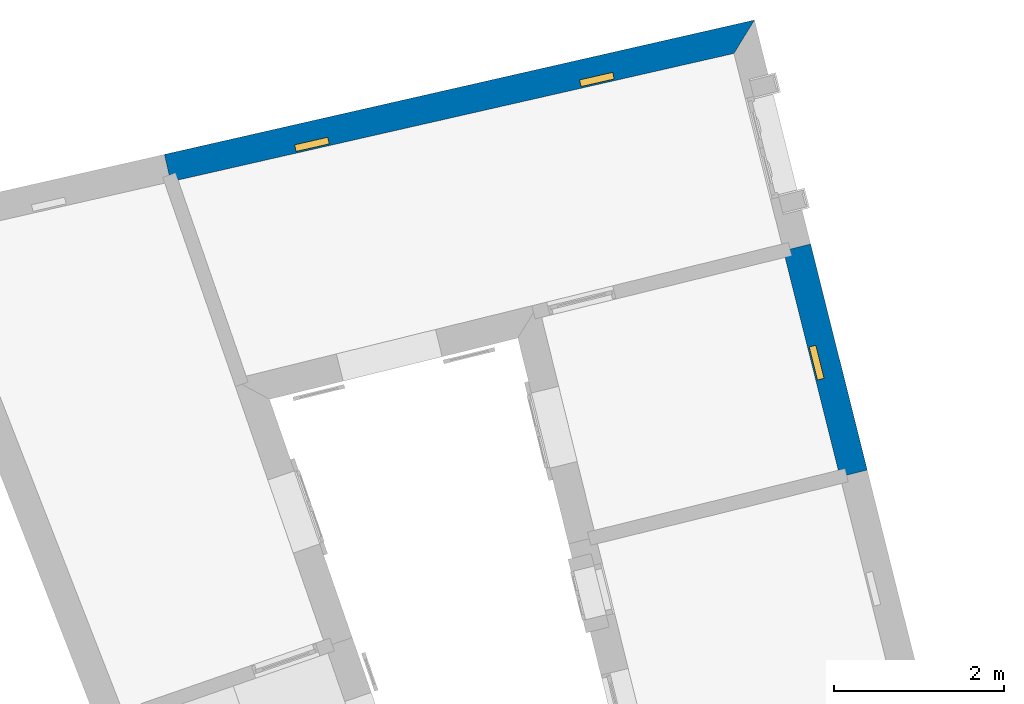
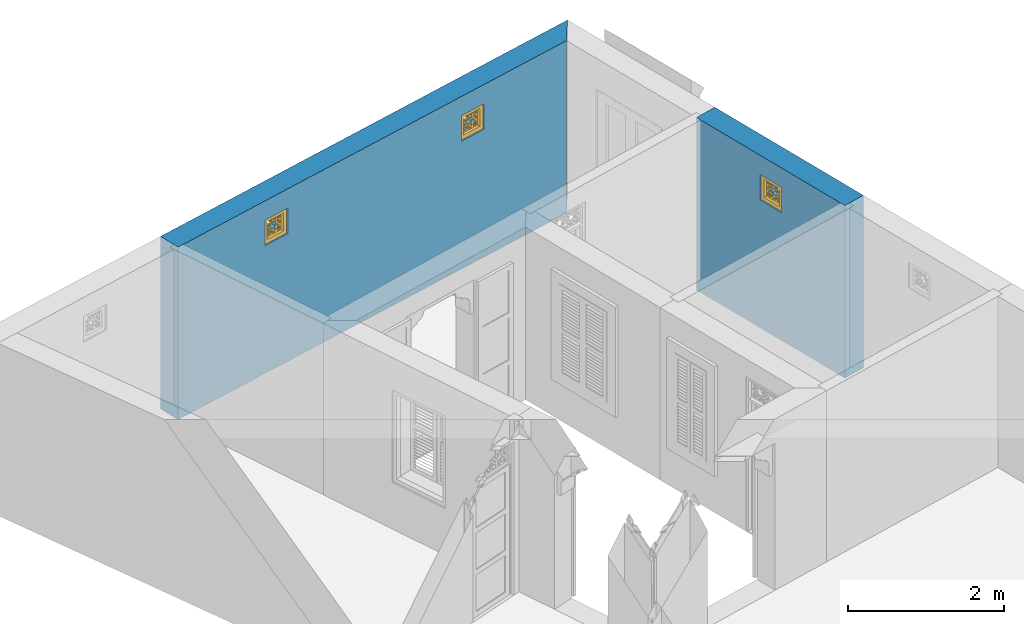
# One storey, part 10 of 12: 3 windows, 2 walls, 3 openings.
"""IFC4 building model written with IfcOpenShell, lengths in metres."""

import ifcopenshell
import ifcopenshell.guid

model = None  # the IFC model being written
_history = None  # IfcOwnerHistory: only IFC2X3 demands one
_inside = {}  # id of a spatial element -> (the spatial element, [elements in it])
_under = {}  # id of a project, library or spatial element -> (it, [spatial elements below it])
_declared = {}  # id of a project -> (the project, [libraries it declares])
_typed = {}  # id of a type object -> (the type object, [elements of that type])
_made_of = {}  # id of a material, layer set ... -> (it, [elements and type objects made of it])


def new_model(schema):
    """Start an empty IFC model of exactly this schema.

    Asked for "IFC4X3", IfcOpenShell would pick the latest addendum, in which some entities
    have other attributes; the version numbers below select the first issue.
    IFC2X3 requires an IfcOwnerHistory on every rooted entity: one is made here for all.
    """
    global model, _history
    if schema == "IFC4X3":
        model = ifcopenshell.file(schema_version=(4, 3, 0, 0))
    else:
        model = ifcopenshell.file(schema=schema)
    _inside.clear()
    _under.clear()
    _declared.clear()
    _typed.clear()
    _made_of.clear()
    _history = None
    if model.schema == "IFC2X3":
        org = make("IfcOrganization", Name="unknown")
        user = make(
            "IfcPersonAndOrganization",
            ThePerson=make("IfcPerson", FamilyName="unknown"),
            TheOrganization=org,
        )
        app = make(
            "IfcApplication",
            ApplicationDeveloper=org,
            Version="unknown",
            ApplicationFullName="unknown",
            ApplicationIdentifier="unknown",
        )
        _history = make(
            "IfcOwnerHistory",
            OwningUser=user,
            OwningApplication=app,
            ChangeAction="ADDED",
            CreationDate=0,
        )
    return model


def make(cls, **values):
    """One entity of the class cls with the attributes given. An attribute that is None is left unset."""
    return model.create_entity(
        cls, **{name: value for name, value in values.items() if value is not None}
    )


def rooted(cls, **values):
    """An entity with a GlobalId (a new one), such as an element, a storey or a relation."""
    return make(cls, GlobalId=ifcopenshell.guid.new(), OwnerHistory=_history, **values)


def si_unit(unit_type, name, prefix=None):
    """IfcSIUnit, for example si_unit("LENGTHUNIT", "METRE", prefix="MILLI")."""
    return make("IfcSIUnit", UnitType=unit_type, Prefix=prefix, Name=name)


def assignment(units):
    """IfcUnitAssignment: the units of a project."""
    return None if units is None else make("IfcUnitAssignment", Units=units)


def point(xyz):
    """IfcCartesianPoint."""
    return None if xyz is None else make("IfcCartesianPoint", Coordinates=xyz)


def direction(xyz):
    """IfcDirection."""
    return None if xyz is None else make("IfcDirection", DirectionRatios=xyz)


def frame(location, z_axis=None, x_axis=None):
    """IfcAxis2Placement3D, a coordinate frame: its origin and axes. An axis left out is left unset."""
    return make(
        "IfcAxis2Placement3D",
        Location=point(location),
        Axis=direction(z_axis),
        RefDirection=direction(x_axis),
    )


def origin():
    """The frame at (0, 0, 0) with its axes left unset."""
    return frame((0.0, 0.0, 0.0))


def origin_with_axes():
    """The frame at (0, 0, 0) with the z axis (0, 0, 1) and the x axis (1, 0, 0) written out."""
    return frame((0.0, 0.0, 0.0), z_axis=(0.0, 0.0, 1.0), x_axis=(1.0, 0.0, 0.0))


def place(relative_to, where):
    """IfcLocalPlacement: puts the frame where relative to a parent placement (None: the world)."""
    return make(
        "IfcLocalPlacement", PlacementRelTo=relative_to, RelativePlacement=where
    )


def context(
    kind, dimensions, precision=None, world=None, true_north=None, identifier=None
):
    """IfcGeometricRepresentationContext, for example the 3D "Model" context."""
    return make(
        "IfcGeometricRepresentationContext",
        ContextIdentifier=identifier,
        ContextType=kind,
        CoordinateSpaceDimension=dimensions,
        Precision=precision,
        WorldCoordinateSystem=world,
        TrueNorth=true_north,
    )


def subcontext(parent, identifier, kind, view, scale=None):
    """IfcGeometricRepresentationSubContext, for example "Body" below "Model"."""
    return make(
        "IfcGeometricRepresentationSubContext",
        ContextIdentifier=identifier,
        ContextType=kind,
        ParentContext=parent,
        TargetScale=scale,
        TargetView=view,
    )


def project(units=None, contexts=None):
    """IfcProject with its units and contexts."""
    return rooted(
        "IfcProject",
        Name="project",
        RepresentationContexts=contexts,
        UnitsInContext=assignment(units),
    )


def spatial(cls, under=None, at=None, **own):
    """A site, building, storey or space (cls), placed at a placement, below another one or the project."""
    s = rooted(cls, ObjectPlacement=at, **own)
    if under is not None:
        _under.setdefault(under.id(), (under, []))[1].append(s)
    return s


def polyline(points):
    """IfcPolyline through the points."""
    return make("IfcPolyline", Points=[point(p) for p in points])


def outline(outer, holes=None, kind="AREA"):
    """IfcArbitraryClosedProfileDef: a profile drawn as a closed curve; with holes, ...WithVoids."""
    if holes is None:
        return make("IfcArbitraryClosedProfileDef", ProfileType=kind, OuterCurve=outer)
    return make(
        "IfcArbitraryProfileDefWithVoids",
        ProfileType=kind,
        OuterCurve=outer,
        InnerCurves=holes,
    )


def extrude(swept, where, along, depth):
    """IfcExtrudedAreaSolid: the profile swept, set in the frame where, extruded along a direction by depth."""
    return make(
        "IfcExtrudedAreaSolid",
        SweptArea=swept,
        Position=where,
        ExtrudedDirection=direction(along),
        Depth=depth,
    )


def faces_of(points, faces, orient=None, outer=None):
    """IfcFace entities. A face is a list of loops; a loop is a list of indices into points, from 0.

    orient and outer hold one flag for each loop. By default every Orientation is true, the
    first loop of a face is its IfcFaceOuterBound and the others are IfcFaceBound.
    """
    made = []
    for i, loops in enumerate(faces):
        bounds = []
        for j, loop in enumerate(loops):
            is_outer = j == 0 if outer is None else outer[i][j]
            bounds.append(
                make(
                    "IfcFaceOuterBound" if is_outer else "IfcFaceBound",
                    Bound=make("IfcPolyLoop", Polygon=[points[k] for k in loop]),
                    Orientation=True if orient is None else orient[i][j],
                )
            )
        made.append(make("IfcFace", Bounds=bounds))
    return made


def faceted_brep(points, faces, orient=None, outer=None, voids=None):
    """IfcFacetedBrep: a solid bounded by flat faces; with voids (closed shells), ...WithVoids."""
    shared = [point(p) for p in points]
    hull = make("IfcClosedShell", CfsFaces=faces_of(shared, faces, orient, outer))
    if voids is None:
        return make("IfcFacetedBrep", Outer=hull)
    return make(
        "IfcFacetedBrepWithVoids",
        Outer=hull,
        Voids=[
            make(cls, CfsFaces=faces_of(shared, fs, o, b)) for cls, fs, o, b in voids
        ],
    )


def shape(context_of_items, identifier, shape_type, items):
    """IfcShapeRepresentation: the items that make up one representation, for example the "Body"."""
    return make(
        "IfcShapeRepresentation",
        ContextOfItems=context_of_items,
        RepresentationIdentifier=identifier,
        RepresentationType=shape_type,
        Items=items,
    )


def source(mapping_origin, context_of_items, identifier, shape_type, items):
    """IfcRepresentationMap: a shape defined once, which mapped items show again and again."""
    return make(
        "IfcRepresentationMap",
        MappingOrigin=mapping_origin,
        MappedRepresentation=shape(context_of_items, identifier, shape_type, items),
    )


def transform(
    local_origin,
    x_axis=None,
    y_axis=None,
    z_axis=None,
    scale=None,
    scale2=None,
    scale3=None,
    uniform=True,
):
    """IfcCartesianTransformationOperator3D, or its non-uniform kind. x_axis, y_axis, z_axis: its Axis1, 2, 3."""
    if uniform:
        return make(
            "IfcCartesianTransformationOperator3D",
            Axis1=direction(x_axis),
            Axis2=direction(y_axis),
            LocalOrigin=point(local_origin),
            Scale=scale,
            Axis3=direction(z_axis),
        )
    return make(
        "IfcCartesianTransformationOperator3DnonUniform",
        Axis1=direction(x_axis),
        Axis2=direction(y_axis),
        LocalOrigin=point(local_origin),
        Scale=scale,
        Axis3=direction(z_axis),
        Scale2=scale2,
        Scale3=scale3,
    )


def mapped(mapping_source, mapping_target):
    """IfcMappedItem: shows the shape of a source again, moved by a transform."""
    return make(
        "IfcMappedItem", MappingSource=mapping_source, MappingTarget=mapping_target
    )


def material(Name=None, Category=None):
    """IfcMaterial."""
    return make("IfcMaterial", Name=Name, Category=Category)


def layer(
    of_material, thickness, ventilated=None, Name=None, Category=None, Priority=None
):
    """IfcMaterialLayer: one layer of a wall or slab, of a material (None: an air gap)."""
    return make(
        "IfcMaterialLayer",
        Material=of_material,
        LayerThickness=thickness,
        IsVentilated=ventilated,
        Name=Name,
        Category=Category,
        Priority=Priority,
    )


def layer_set(layers, Name=None):
    """IfcMaterialLayerSet."""
    return make("IfcMaterialLayerSet", MaterialLayers=layers, LayerSetName=Name)


def layer_usage(for_layer_set, set_direction, sense, offset, extent=None):
    """IfcMaterialLayerSetUsage: how a layer set lies in its element."""
    return make(
        "IfcMaterialLayerSetUsage",
        ForLayerSet=for_layer_set,
        LayerSetDirection=set_direction,
        DirectionSense=sense,
        OffsetFromReferenceLine=offset,
        ReferenceExtent=extent,
    )


def made_of(thing, what):
    """Note that an element or type object is made of a material, layer set ...; save() writes the relation."""
    if what is not None:
        _made_of.setdefault(what.id(), (what, []))[1].append(thing)
    return thing


def type_object(cls, material=None, **own):
    """A type object (cls), such as IfcWallType, which elements share."""
    return made_of(rooted(cls, **own), material)


def type_shapes(of_type, sources):
    """Give a type object the sources (RepresentationMaps) that its elements show as mapped items."""
    of_type.RepresentationMaps = sources


def element(
    cls,
    number,
    at=None,
    inside=None,
    cuts=None,
    type_object=None,
    material=None,
    context=None,
    identifier="Body",
    shape_type=None,
    held_by="IfcProductDefinitionShape",
    body=None,
    shapes=None,
    **own,
):
    """One element of the class cls, such as IfcWall. Its Tag is "e" and its number.

    at: its placement. inside: the storey or other place that contains it. cuts: it is an
    opening in that element (IfcRelVoidsElement). A single representation is given by context,
    identifier, shape_type and body (its items); several are given by shapes. held_by: the class
    of the entity that holds the representations. save() writes the other relations.
    """
    e = rooted(cls, Tag="e%d" % number, ObjectPlacement=at, **own)
    if body is not None:
        shapes = [shape(context, identifier, shape_type, body)]
    if shapes is not None:
        e.Representation = make(held_by, Representations=shapes)
    if inside is not None:
        _inside.setdefault(inside.id(), (inside, []))[1].append(e)
    if cuts is not None:
        rooted(
            "IfcRelVoidsElement", RelatingBuildingElement=cuts, RelatedOpeningElement=e
        )
    if type_object is not None:
        _typed.setdefault(type_object.id(), (type_object, []))[1].append(e)
    return made_of(e, material)


def fill(opening, filler):
    """IfcRelFillsElement: the door or window that sits in an opening."""
    return rooted(
        "IfcRelFillsElement",
        RelatingOpeningElement=opening,
        RelatedBuildingElement=filler,
    )


def aggregate(whole, parts):
    """IfcRelAggregates: a whole, such as a stair, and the parts it consists of."""
    return rooted("IfcRelAggregates", RelatingObject=whole, RelatedObjects=parts)


def save(model, path):
    """Write the relations noted so far, then the file.

    IfcRelAggregates (storeys below a building ...), IfcRelContainedInSpatialStructure (elements
    in a storey), IfcRelDefinesByType, IfcRelAssociatesMaterial and IfcRelDeclares: one each for
    every whole, place, type object, material and project.
    """
    for whole, parts in _under.values():
        aggregate(whole, parts)
    for where, things in _inside.values():
        rooted(
            "IfcRelContainedInSpatialStructure",
            RelatedElements=things,
            RelatingStructure=where,
        )
    for kind, things in _typed.values():
        rooted("IfcRelDefinesByType", RelatedObjects=things, RelatingType=kind)
    for what, things in _made_of.values():
        rooted("IfcRelAssociatesMaterial", RelatedObjects=things, RelatingMaterial=what)
    for by, libraries in _declared.values():
        rooted("IfcRelDeclares", RelatingContext=by, RelatedDefinitions=libraries)
    model.write(path)


model = new_model("IFC4")

# Units and contexts
model_context = context("Model", 3, world=origin_with_axes())
body_context = subcontext(model_context, "Body", "Model", "MODEL_VIEW")
ifc_project = project(units=[si_unit("PLANEANGLEUNIT", "RADIAN"), si_unit("MASSUNIT", "GRAM", prefix="KILO"), si_unit("FORCEUNIT", "NEWTON", prefix="KILO"), si_unit("LENGTHUNIT", "METRE"), si_unit("AREAUNIT", "SQUARE_METRE"), si_unit("VOLUMEUNIT", "CUBIC_METRE")], contexts=[model_context, model_context])

# Site, building, storey
site_placement = place(None, origin_with_axes())
site = spatial("IfcSite", under=ifc_project, at=site_placement, Name="Site plot-1", CompositionType="ELEMENT")
building_placement = place(None, origin_with_axes())
building = spatial("IfcBuilding", under=site, at=building_placement, Name="Building plot-1", CompositionType="ELEMENT")
storey_placement = place(None, origin_with_axes())
storey = spatial("IfcBuildingStorey", under=building, at=storey_placement, Name="plot-1 0", CompositionType="ELEMENT", Elevation=0.0)

# Wall, opening, window
ifc_material = material(Name="Masonry")
ifc_layer = layer(ifc_material, 0.33, ventilated=False)
ifc_layer_set = layer_set([ifc_layer], Name="exterior_0.08_0.25")
ifc_layer_usage = layer_usage(ifc_layer_set, "AXIS2", "POSITIVE", -0.25)
wall_type = type_object("IfcWallType", Name="exterior_0.08_0.25", PredefinedType="SOLIDWALL", material=ifc_layer_set)
wall_1_placement = place(storey_placement, frame((5.52498277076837, 21.9796889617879, 0.0), z_axis=(0.0, 0.0, 1.0), x_axis=(-0.2429726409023, 0.970033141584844, 0.0)))
wall_1 = element("IfcWall", 1, at=wall_1_placement, inside=storey, type_object=wall_type, material=ifc_layer_usage, Name="exterior", context=body_context, shape_type="SweptSolid", body=[
    extrude(outline(polyline([(4.3122422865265e-16, 0.0800000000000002), (-1.26144839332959e-15, -0.25), (2.74091515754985, -0.249999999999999), (2.74091515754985, 0.0800000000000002), (4.3122422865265e-16, 0.0800000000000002)])), origin_with_axes(), (0.0, 0.0, 1.0), 2.7),
])
opening_1_placement = place(wall_1_placement, frame((1.17045757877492, 0.0, 2.0)))
opening_1 = element("IfcOpeningElement", 2, at=opening_1_placement, cuts=wall_1, Name="My Opening", ObjectType="Opening", context=body_context, shape_type="SweptSolid", body=[
    extrude(outline(polyline([(0.0, -0.269999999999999), (0.400000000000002, -0.269999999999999), (0.400000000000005, 1.1), (3.10862446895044e-15, 1.1), (0.0, -0.269999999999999)])), origin_with_axes(), (0.0, 0.0, 1.0), 0.4),
])
window_type = type_object("IfcWindowType", Name="barred_window", PartitioningType="DOUBLE_PANEL_HORIZONTAL", PredefinedType="NOTDEFINED")
shared_shape = source(origin(), body_context, "Body", "Brep", [
    faceted_brep([(0.4, 0.25, 0.4), (0.0, 0.25, 0.4), (0.06, 0.25, 0.34), (0.34, 0.25, 0.34), (0.06, 0.33, 0.34), (0.34, 0.33, 0.34), (0.34, 0.25, 0.06), (0.4, 0.25, 0.0), (0.4, 0.33, 0.4), (0.0, 0.33, 0.4), (0.0, 0.25, 0.0), (0.06, 0.25, 0.06), (0.06, 0.33, 0.06), (0.34, 0.33, 0.06), (0.4, 0.33, 0.0), (0.0, 0.33, 0.0), (0.136152, 0.28, 0.08), (0.08, 0.28, 0.08), (0.06, 0.28, 0.06), (0.136152, 0.28, 0.06), (0.136152, 0.29, 0.08), (0.08, 0.29, 0.08), (0.06, 0.28, 0.136152), (0.08, 0.28, 0.136152), (0.06, 0.29, 0.06), (0.136152, 0.29, 0.06), (0.170294, 0.28, 0.08), (0.170294, 0.28, 0.06), (0.136152, 0.28, 0.136152), (0.136152, 0.29, 0.136152), (0.08, 0.29, 0.136152), (0.06, 0.29, 0.136152), (0.08, 0.28, 0.170294), (0.06, 0.28, 0.170294), (0.170294, 0.29, 0.06), (0.229706, 0.28, 0.08), (0.229706, 0.28, 0.06), (0.156152, 0.28, 0.094142), (0.156152, 0.28, 0.136152), (0.185858, 0.28, 0.123848), (0.185858, 0.29, 0.123848), (0.156152, 0.29, 0.094142), (0.156152, 0.29, 0.136152), (0.229706, 0.29, 0.08), (0.170294, 0.29, 0.08), (0.2, 0.28, 0.109706), (0.2, 0.29, 0.109706), (0.06, 0.29, 0.170294), (0.094142, 0.28, 0.156152), (0.08, 0.28, 0.229706), (0.06, 0.28, 0.229706), (0.229706, 0.29, 0.06), (0.263848, 0.28, 0.08), (0.263848, 0.28, 0.06), (0.156152, 0.28, 0.156152), (0.136152, 0.28, 0.156152), (0.173553, 0.28, 0.136152), (0.173553, 0.29, 0.136152), (0.156152, 0.29, 0.156152), (0.136152, 0.29, 0.156152), (0.094142, 0.29, 0.156152), (0.08, 0.29, 0.170294), (0.06, 0.29, 0.229706), (0.123848, 0.28, 0.185858), (0.109706, 0.28, 0.2), (0.08, 0.29, 0.229706), (0.08, 0.28, 0.263848), (0.06, 0.28, 0.263848), (0.263848, 0.29, 0.06), (0.2, 0.28, 0.13799), (0.214142, 0.28, 0.123848), (0.34, 0.28, 0.06), (0.32, 0.28, 0.08), (0.181838, 0.28, 0.156152), (0.136152, 0.28, 0.173553), (0.156152, 0.28, 0.181838), (0.181838, 0.29, 0.156152), (0.2, 0.29, 0.13799), (0.214142, 0.29, 0.123848), (0.136152, 0.29, 0.173553), (0.156152, 0.29, 0.181838), (0.243848, 0.28, 0.094142), (0.243848, 0.29, 0.094142), (0.263848, 0.28, 0.136152), (0.263848, 0.29, 0.08), (0.263848, 0.29, 0.136152), (0.32, 0.29, 0.08), (0.243848, 0.28, 0.136152), (0.243848, 0.29, 0.136152), (0.06, 0.29, 0.263848), (0.123848, 0.29, 0.185858), (0.13799, 0.28, 0.2), (0.123848, 0.28, 0.214142), (0.109706, 0.29, 0.2), (0.094142, 0.28, 0.243848), (0.08, 0.28, 0.32), (0.06, 0.28, 0.34), (0.34, 0.29, 0.06), (0.218162, 0.28, 0.156152), (0.226447, 0.28, 0.136152), (0.34, 0.28, 0.229706), (0.32, 0.28, 0.229706), (0.32, 0.28, 0.170294), (0.32, 0.28, 0.136152), (0.218162, 0.29, 0.156152), (0.226447, 0.29, 0.136152), (0.13799, 0.29, 0.2), (0.32, 0.29, 0.136152), (0.08, 0.29, 0.263848), (0.06, 0.29, 0.34), (0.136152, 0.28, 0.226447), (0.156152, 0.28, 0.218162), (0.094142, 0.29, 0.243848), (0.123848, 0.29, 0.214142), (0.136152, 0.28, 0.243848), (0.136152, 0.28, 0.263848), (0.08, 0.29, 0.32), (0.136152, 0.28, 0.34), (0.136152, 0.28, 0.32), (0.34, 0.29, 0.229706), (0.243848, 0.28, 0.156152), (0.263848, 0.28, 0.156152), (0.34, 0.28, 0.263848), (0.32, 0.28, 0.263848), (0.32, 0.29, 0.229706), (0.32, 0.29, 0.170294), (0.290294, 0.28, 0.2), (0.276152, 0.28, 0.185858), (0.305858, 0.28, 0.156152), (0.243848, 0.29, 0.156152), (0.263848, 0.29, 0.156152), (0.305858, 0.29, 0.156152), (0.276152, 0.29, 0.185858), (0.290294, 0.29, 0.2), (0.136152, 0.29, 0.34), (0.136152, 0.29, 0.226447), (0.156152, 0.29, 0.218162), (0.156152, 0.28, 0.243848), (0.136152, 0.29, 0.243848), (0.156152, 0.28, 0.263848), (0.136152, 0.29, 0.263848), (0.136152, 0.29, 0.32), (0.170294, 0.28, 0.32), (0.170294, 0.28, 0.34), (0.34, 0.29, 0.263848), (0.243848, 0.28, 0.181838), (0.263848, 0.28, 0.173553), (0.34, 0.28, 0.34), (0.32, 0.28, 0.32), (0.305858, 0.28, 0.243848), (0.276152, 0.28, 0.214142), (0.26201, 0.28, 0.2), (0.243848, 0.29, 0.181838), (0.263848, 0.29, 0.173553), (0.26201, 0.29, 0.2), (0.276152, 0.29, 0.214142), (0.32, 0.29, 0.263848), (0.170294, 0.29, 0.34), (0.156152, 0.29, 0.243848), (0.173553, 0.28, 0.263848), (0.181838, 0.28, 0.243848), (0.156152, 0.28, 0.305858), (0.229706, 0.28, 0.32), (0.229706, 0.28, 0.34), (0.34, 0.29, 0.34), (0.263848, 0.28, 0.34), (0.263848, 0.28, 0.32), (0.32, 0.29, 0.32), (0.263848, 0.28, 0.263848), (0.263848, 0.28, 0.243848), (0.305858, 0.29, 0.243848), (0.263848, 0.28, 0.226447), (0.243848, 0.28, 0.218162), (0.243848, 0.29, 0.218162), (0.263848, 0.29, 0.226447), (0.156152, 0.29, 0.263848), (0.170294, 0.29, 0.32), (0.229706, 0.29, 0.34), (0.181838, 0.29, 0.243848), (0.173553, 0.29, 0.263848), (0.185858, 0.28, 0.276152), (0.2, 0.28, 0.26201), (0.156152, 0.29, 0.305858), (0.229706, 0.29, 0.32), (0.263848, 0.29, 0.34), (0.263848, 0.29, 0.32), (0.263848, 0.29, 0.263848), (0.243848, 0.28, 0.243848), (0.243848, 0.28, 0.263848), (0.263848, 0.29, 0.243848), (0.243848, 0.29, 0.243848), (0.2, 0.29, 0.26201), (0.185858, 0.29, 0.276152), (0.214142, 0.28, 0.276152), (0.218162, 0.28, 0.243848), (0.226447, 0.28, 0.263848), (0.243848, 0.28, 0.305858), (0.2, 0.28, 0.290294), (0.2, 0.29, 0.290294), (0.243848, 0.29, 0.263848), (0.218162, 0.29, 0.243848), (0.214142, 0.29, 0.276152), (0.226447, 0.29, 0.263848), (0.243848, 0.29, 0.305858)], [[[0, 1, 2, 3]], [[3, 2, 4, 5]], [[3, 6, 7, 0]], [[1, 0, 8, 9]], [[1, 10, 11, 2]], [[2, 11, 12, 4]], [[9, 8, 5, 4]], [[6, 3, 5, 13]], [[6, 11, 10, 7]], [[0, 7, 14, 8]], [[10, 1, 9, 15]], [[11, 6, 13, 12]], [[4, 12, 15, 9]], [[8, 14, 13, 5]], [[7, 10, 15, 14]], [[12, 13, 14, 15]], [[16, 17, 18, 19]], [[17, 16, 20, 21]], [[22, 18, 17, 23]], [[19, 18, 24, 25]], [[26, 16, 19, 27]], [[16, 28, 29, 20]], [[21, 20, 25, 24]], [[23, 17, 21, 30]], [[18, 22, 31, 24]], [[23, 32, 33, 22]], [[27, 19, 25, 34]], [[35, 26, 27, 36]], [[28, 16, 37, 38]], [[37, 39, 40, 41]], [[38, 37, 41, 42]], [[20, 29, 42, 41]], [[26, 35, 43, 44]], [[45, 26, 44, 46]], [[20, 44, 34, 25]], [[28, 23, 30, 29]], [[24, 31, 30, 21]], [[22, 33, 47, 31]], [[48, 32, 23]], [[32, 49, 50, 33]], [[36, 27, 34, 51]], [[39, 37, 26, 45]], [[52, 35, 36, 53]], [[38, 54, 55, 28]], [[39, 56, 57, 40]], [[41, 40, 46, 44]], [[56, 38, 42, 57]], [[58, 42, 29, 59]], [[35, 45, 46, 43]], [[44, 43, 51, 34]], [[23, 28, 55, 48]], [[29, 30, 60, 59]], [[61, 30, 31, 47]], [[33, 50, 62, 47]], [[48, 63, 64, 32]], [[49, 32, 61, 65]], [[49, 66, 67, 50]], [[53, 36, 51, 68]], [[69, 39, 45, 70]], [[53, 71, 72, 52]], [[73, 54, 38, 56]], [[74, 55, 54, 75]], [[56, 39, 69, 73]], [[40, 57, 76, 77]], [[40, 77, 78, 46]], [[58, 76, 57, 42]], [[59, 79, 80, 58]], [[45, 35, 81, 70]], [[43, 46, 78, 82]], [[83, 52, 84, 85]], [[82, 84, 43]], [[52, 72, 86, 84]], [[43, 84, 68, 51]], [[44, 20, 41]], [[70, 81, 82, 78]], [[81, 87, 88, 82]], [[48, 55, 59, 60]], [[61, 60, 30]], [[65, 61, 47, 62]], [[50, 67, 89, 62]], [[63, 48, 60, 90]], [[63, 91, 92, 64]], [[32, 64, 93, 61]], [[64, 49, 65, 93]], [[94, 66, 49]], [[66, 95, 96, 67]], [[71, 53, 68, 97]], [[98, 69, 70, 99]], [[81, 52, 83, 87]], [[72, 71, 100]], [[100, 101, 102]], [[103, 72, 100]], [[100, 102, 103]], [[54, 73, 76, 58]], [[55, 74, 79, 59]], [[75, 54, 58, 80]], [[63, 74, 75, 91]], [[73, 69, 77, 76]], [[77, 104, 105, 78]], [[79, 90, 106, 80]], [[84, 82, 88, 85]], [[103, 83, 85, 107]], [[72, 103, 107, 86]], [[97, 68, 84, 86]], [[99, 70, 78, 105]], [[87, 99, 105, 88]], [[90, 60, 61, 93]], [[108, 65, 62, 89]], [[67, 96, 109, 89]], [[74, 63, 90, 79]], [[110, 92, 91, 111]], [[49, 64, 92, 94]], [[93, 65, 112, 113]], [[94, 114, 115, 66]], [[95, 66, 108, 116]], [[117, 96, 95, 118]], [[100, 71, 97, 119]], [[69, 98, 104, 77]], [[99, 87, 120, 98]], [[87, 83, 121, 120]], [[101, 100, 122, 123]], [[102, 101, 124, 125]], [[121, 83, 103]], [[103, 102, 126]], [[126, 127, 128]], [[128, 121, 103]], [[103, 126, 128]], [[91, 75, 80, 106]], [[88, 105, 104, 129]], [[106, 90, 93, 113]], [[85, 88, 129, 130]], [[107, 85, 130]], [[131, 132, 133]], [[107, 130, 131]], [[133, 125, 107]], [[107, 131, 133]], [[124, 119, 97]], [[97, 86, 107]], [[107, 125, 124]], [[97, 107, 124]], [[108, 112, 65]], [[116, 108, 89, 109]], [[96, 117, 134, 109]], [[92, 110, 135, 113]], [[111, 91, 106, 136]], [[114, 110, 111, 137]], [[94, 92, 113, 112]], [[114, 94, 112, 138]], [[114, 137, 139, 115]], [[66, 115, 140, 108]], [[118, 95, 116, 141]], [[118, 142, 143, 117]], [[122, 100, 119, 144]], [[98, 120, 129, 104]], [[145, 120, 121, 146]], [[122, 147, 148, 123]], [[123, 149, 101]], [[101, 126, 133, 124]], [[126, 102, 125, 133]], [[127, 126, 150, 151]], [[128, 127, 132, 131]], [[121, 128, 131, 130]], [[113, 135, 136, 106]], [[129, 152, 153, 130]], [[133, 132, 154, 155]], [[119, 124, 156, 144]], [[138, 112, 108, 140]], [[109, 134, 141, 116]], [[117, 143, 157, 134]], [[110, 114, 138, 135]], [[137, 111, 136, 158]], [[159, 139, 137, 160]], [[118, 115, 139, 161]], [[115, 118, 141, 140]], [[161, 142, 118]], [[162, 163, 143, 142]], [[147, 122, 144, 164]], [[120, 145, 152, 129]], [[146, 121, 130, 153]], [[146, 127, 151, 145]], [[147, 165, 166, 148]], [[123, 148, 167, 156]], [[149, 123, 168, 169]], [[149, 150, 126, 101]], [[155, 170, 124, 133]], [[151, 150, 171, 172]], [[127, 146, 153, 132]], [[135, 138, 158, 136]], [[132, 153, 152, 154]], [[155, 154, 173, 174]], [[170, 156, 124]], [[164, 144, 156, 167]], [[158, 138, 140, 175]], [[176, 141, 134, 157]], [[143, 163, 177, 157]], [[160, 137, 158, 178]], [[139, 159, 179, 175]], [[180, 159, 160, 181]], [[161, 139, 175, 182]], [[140, 141, 182, 175]], [[166, 165, 163, 162]], [[162, 142, 176, 183]], [[165, 147, 164, 184]], [[145, 151, 154, 152]], [[148, 166, 185, 167]], [[156, 186, 168, 123]], [[187, 169, 168, 188]], [[149, 169, 189, 170]], [[150, 149, 170, 155]], [[171, 150, 155, 174]], [[171, 169, 187, 172]], [[151, 172, 173, 154]], [[189, 174, 173, 190]], [[156, 170, 189, 186]], [[184, 164, 167, 185]], [[175, 179, 178, 158]], [[176, 182, 141]], [[177, 183, 176, 157]], [[163, 165, 184, 177]], [[181, 160, 178, 191]], [[159, 180, 192, 179]], [[180, 161, 182, 192]], [[193, 181, 194, 195]], [[196, 162, 197, 193]], [[180, 197, 142, 161]], [[197, 180, 181, 193]], [[142, 197, 198, 176]], [[162, 196, 166]], [[35, 52, 81]], [[197, 162, 183, 198]], [[185, 166, 168, 186]], [[196, 188, 168, 166]], [[187, 188, 195, 194]], [[169, 171, 174, 189]], [[172, 187, 190, 173]], [[189, 190, 199, 186]], [[184, 185, 183, 177]], [[179, 192, 191, 178]], [[176, 198, 192, 182]], [[194, 181, 191, 200]], [[191, 192, 198, 201]], [[26, 37, 16]], [[193, 195, 202, 201]], [[196, 193, 201, 203]], [[191, 201, 202, 200]], [[183, 203, 201, 198]], [[188, 196, 203, 199]], [[203, 183, 185]], [[199, 203, 185, 186]], [[195, 188, 199, 202]], [[187, 194, 200, 190]], [[199, 190, 200, 202]]]),
])
type_shapes(window_type, [shared_shape])
window_1_placement = place(storey_placement, frame((5.50250255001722, 23.1806742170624, 2.0), z_axis=(0.0, 0.0, 1.0), x_axis=(-0.0971890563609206, 0.38801325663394, 0.0)))
window_1 = element("IfcWindow", 3, at=window_1_placement, inside=storey, type_object=window_type, Name="bedroom street window", OverallHeight=0.4, OverallWidth=0.4, context=body_context, shape_type="MappedRepresentation", body=[
    mapped(shared_shape, transform((0.0, 0.0, 0.0), scale=1.0)),
])
fill(opening_1, window_1)

# Wall, openings, windows
wall_2_placement = place(storey_placement, frame((4.25884576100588, 27.0345579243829, 0.0), z_axis=(0.0, 0.0, 1.0), x_axis=(-0.975027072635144, -0.22208603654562, 0.0)))
wall_2 = element("IfcWall", 4, at=wall_2_placement, inside=storey, type_object=wall_type, material=ifc_layer_usage, Name="exterior", context=body_context, shape_type="SweptSolid", body=[
    extrude(outline(polyline([(0.0783001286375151, 0.0799999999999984), (-0.244687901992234, -0.249999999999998), (6.87150462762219, -0.25), (6.87150462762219, 0.0799999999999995), (0.0783001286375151, 0.0799999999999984)])), origin_with_axes(), (0.0, 0.0, 1.0), 2.7),
])
opening_2_placement = place(wall_2_placement, frame((1.51787615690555, 0.0, 2.0)))
opening_2 = element("IfcOpeningElement", 5, at=opening_2_placement, cuts=wall_2, Name="My Opening", ObjectType="Opening", context=body_context, shape_type="SweptSolid", body=[
    extrude(outline(polyline([(0.0, -0.270000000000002), (0.4, -0.270000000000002), (0.4, 1.1), (6.66133814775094e-16, 1.1), (0.0, -0.270000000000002)])), origin_with_axes(), (0.0, 0.0, 1.0), 0.4),
])
opening_3_placement = place(wall_2_placement, frame((4.95362847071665, 0.0, 2.0)))
opening_3 = element("IfcOpeningElement", 6, at=opening_3_placement, cuts=wall_2, Name="My Opening", ObjectType="Opening", context=body_context, shape_type="SweptSolid", body=[
    extrude(outline(polyline([(0.0, -0.27), (0.4, -0.270000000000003), (0.4, 1.1), (-8.88178419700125e-16, 1.1), (0.0, -0.27)])), origin_with_axes(), (0.0, 0.0, 1.0), 0.4),
])
window_2_placement = place(storey_placement, frame((2.71891218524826, 26.9607161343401, 2.0), z_axis=(0.0, 0.0, 1.0), x_axis=(-0.390010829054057, -0.0888344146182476, 0.0)))
window_2 = element("IfcWindow", 7, at=window_2_placement, inside=storey, type_object=window_type, Name="circulation street window", OverallHeight=0.4, OverallWidth=0.4, context=body_context, shape_type="MappedRepresentation", body=[
    mapped(shared_shape, transform((0.0, 0.0, 0.0), scale=1.0)),
])
fill(opening_2, window_2)
window_3_placement = place(storey_placement, frame((-0.631039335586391, 26.1976835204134, 2.0), z_axis=(0.0, 0.0, 1.0), x_axis=(-0.390010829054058, -0.0888344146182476, 0.0)))
window_3 = element("IfcWindow", 8, at=window_3_placement, inside=storey, type_object=window_type, Name="circulation street window", OverallHeight=0.4, OverallWidth=0.4, context=body_context, shape_type="MappedRepresentation", body=[
    mapped(shared_shape, transform((0.0, 0.0, 0.0), scale=1.0)),
])
fill(opening_3, window_3)

save(model, "model.ifc")
